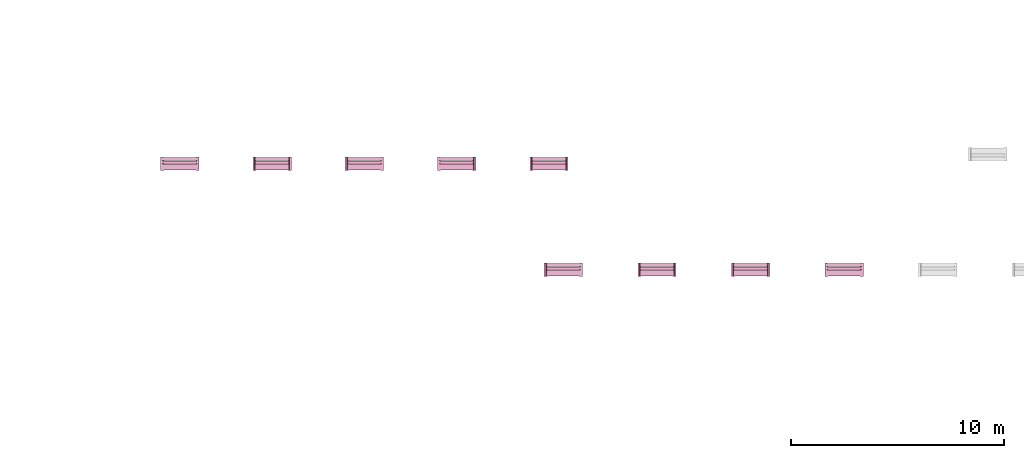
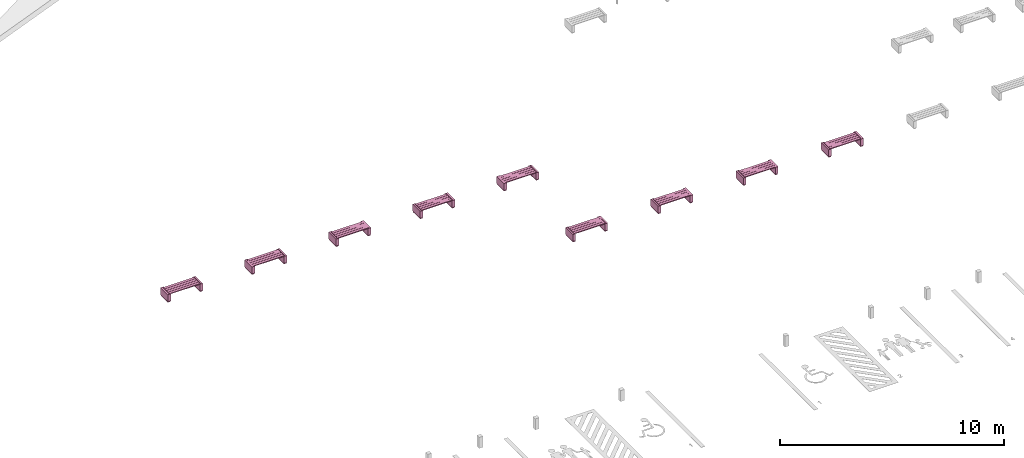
# One storey, part 5 of 8: 9 furnishings.
"""IFC2X3 building model written with IfcOpenShell, lengths in millimetres."""

from ifc_helpers import new_model, entity, si_unit, converted_unit, derived_unit, direction, frame, frame_2d, origin, origin_2d_with_axis, place, context, subcontext, project, spatial, polyline, rectangle, outline, extrude, source, transform, mapped, material, material_list, type_object, type_shapes, element, save


model = new_model("IFC2X3")

# Units and contexts
model_context = context("Model", 3, precision=0.01, world=origin(), true_north=direction((6.12303176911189e-17, 1.0)))
body_context = subcontext(model_context, "Body", "Model", "MODEL_VIEW")
ifc_project = project(units=[si_unit("LENGTHUNIT", "METRE", prefix="MILLI"), si_unit("AREAUNIT", "SQUARE_METRE"), si_unit("VOLUMEUNIT", "CUBIC_METRE"), converted_unit("PLANEANGLEUNIT", "DEGREE", entity("IfcRatioMeasure", 0.0174532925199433), si_unit("PLANEANGLEUNIT", "RADIAN"), dimensions=[0, 0, 0, 0, 0, 0, 0]), si_unit("MASSUNIT", "GRAM", prefix="KILO"), derived_unit("MASSDENSITYUNIT", [(si_unit("MASSUNIT", "GRAM", prefix="KILO"), 1), (si_unit("LENGTHUNIT", "METRE"), -3)]), si_unit("TIMEUNIT", "SECOND"), si_unit("FREQUENCYUNIT", "HERTZ"), si_unit("THERMODYNAMICTEMPERATUREUNIT", "DEGREE_CELSIUS"), derived_unit("THERMALTRANSMITTANCEUNIT", [(si_unit("MASSUNIT", "GRAM", prefix="KILO"), 1), (si_unit("THERMODYNAMICTEMPERATUREUNIT", "KELVIN"), -1), (si_unit("TIMEUNIT", "SECOND"), -3)]), derived_unit("VOLUMETRICFLOWRATEUNIT", [(si_unit("LENGTHUNIT", "METRE"), 3), (si_unit("TIMEUNIT", "SECOND"), -1)]), si_unit("ELECTRICCURRENTUNIT", "AMPERE"), si_unit("ELECTRICVOLTAGEUNIT", "VOLT"), si_unit("POWERUNIT", "WATT"), si_unit("FORCEUNIT", "NEWTON", prefix="KILO"), si_unit("ILLUMINANCEUNIT", "LUX"), si_unit("LUMINOUSFLUXUNIT", "LUMEN"), si_unit("LUMINOUSINTENSITYUNIT", "CANDELA"), derived_unit("USERDEFINED", [(si_unit("MASSUNIT", "GRAM", prefix="KILO"), -1), (si_unit("LENGTHUNIT", "METRE"), -2), (si_unit("TIMEUNIT", "SECOND"), 3), (si_unit("LUMINOUSFLUXUNIT", "LUMEN"), 1)]), derived_unit("LINEARVELOCITYUNIT", [(si_unit("LENGTHUNIT", "METRE"), 1), (si_unit("TIMEUNIT", "SECOND"), -1)]), si_unit("PRESSUREUNIT", "PASCAL"), derived_unit("USERDEFINED", [(si_unit("LENGTHUNIT", "METRE"), -2), (si_unit("MASSUNIT", "GRAM", prefix="KILO"), 1), (si_unit("TIMEUNIT", "SECOND"), -2)])], contexts=[model_context])

# Site, building, storey
site_placement = place(None, origin())
site = spatial("IfcSite", under=ifc_project, at=site_placement, Name="Default", CompositionType="ELEMENT")
building_placement = place(site_placement, origin())
building = spatial("IfcBuilding", under=site, at=building_placement, CompositionType="ELEMENT")
storey_placement = place(building_placement, origin())
storey = spatial("IfcBuildingStorey", under=building, at=storey_placement, Name="Ground Floor", CompositionType="ELEMENT", Elevation=0.0)

# Furnishings
ifc_material_1 = material(Name="Wood - Pine Grained Horizontal")
ifc_material_2 = material(Name="Paint - Titanium White")
ifc_material_list_1 = material_list([ifc_material_1, ifc_material_2])
ifc_material_list_2 = material_list([ifc_material_1, ifc_material_2])
furniture_type_1 = type_object("IfcFurnitureType", Name="FU - 036", material=ifc_material_list_2)
shared_shape_1 = source(origin(), body_context, "Body", "SweptSolid", [
    extrude(rectangle(XDim=135.000000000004, YDim=1600.0, at=origin_2d_with_axis()), frame((55156.8448425, 48076.0211532, 390.0), z_axis=(0.0, 0.0, 1.0), x_axis=(0.0, -1.0, 0.0)), (0.0, 0.0, 1.0), 40.0),
    extrude(rectangle(XDim=135.000000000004, YDim=1600.0, at=origin_2d_with_axis()), frame((55156.8448425, 47931.0211532, 390.0), z_axis=(0.0, 0.0, 1.0), x_axis=(0.0, -1.0, 0.0)), (0.0, 0.0, 1.0), 40.0),
    extrude(rectangle(XDim=135.000000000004, YDim=1600.0, at=origin_2d_with_axis()), frame((55156.8448425, 47786.0211532, 390.0), z_axis=(0.0, 0.0, 1.0), x_axis=(0.0, -1.0, 0.0)), (0.0, 0.0, 1.0), 40.0),
    extrude(rectangle(XDim=134.999999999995, YDim=1600.0, at=frame_2d((-4.32720526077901e-12, 0.0), x_axis=(1.0, 0.0))), frame((55156.8448425, 47641.0211532, 390.0), z_axis=(0.0, 0.0, 1.0), x_axis=(0.0, -1.0, 0.0)), (0.0, 0.0, 1.0), 40.0),
    extrude(outline(polyline([(-53.7500000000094, -325.0), (96.2499999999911, -325.0), (96.2499999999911, 325.0), (-53.7500000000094, 325.0), (-53.7500000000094, 300.0), (11.2499999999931, 300.0), (11.2499999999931, -300.0), (-53.7500000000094, -300.0), (-53.7500000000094, -325.0)])), frame((55960.5948425, 47858.5211532, 390.0)), (0.0, 0.0, 1.0), 40.0),
    extrude(rectangle(XDim=150.000000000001, YDim=650.0, at=frame_2d((0.0, -4.34852154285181e-12), x_axis=(1.0, 0.0))), frame((55981.8448425, 47858.5211532, 50.0)), (0.0, 0.0, 1.0), 340.0),
    extrude(rectangle(XDim=120.000000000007, YDim=619.999999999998, at=origin_2d_with_axis()), frame((55981.8448425, 47858.5211532, 0.0)), (0.0, 0.0, 1.0), 50.0),
    extrude(outline(polyline([(-325.0, -96.2499999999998), (325.0, -96.2499999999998), (325.0, 53.7500000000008), (300.0, 53.7500000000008), (300.0, -11.2500000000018), (-300.0, -11.2500000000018), (-300.0, 53.7500000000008), (-325.0, 53.7500000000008), (-325.0, -96.2499999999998)])), frame((54353.0948425, 47858.5211532, 390.0), z_axis=(0.0, 0.0, 1.0), x_axis=(0.0, -1.0, 0.0)), (0.0, 0.0, 1.0), 40.0),
    extrude(rectangle(XDim=650.0, YDim=150.000000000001, at=frame_2d((4.34852154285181e-12, 0.0), x_axis=(1.0, 0.0))), frame((54331.8448425, 47858.5211532, 50.0), z_axis=(0.0, 0.0, 1.0), x_axis=(0.0, -1.0, 0.0)), (0.0, 0.0, 1.0), 340.0),
    extrude(rectangle(XDim=619.999999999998, YDim=119.999999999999, at=frame_2d((0.0, -4.33075797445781e-12), x_axis=(1.0, 0.0))), frame((54331.8448425, 47858.5211532, 0.0), z_axis=(0.0, 0.0, 1.0), x_axis=(0.0, -1.0, 0.0)), (0.0, 0.0, 1.0), 50.0),
])
type_shapes(furniture_type_1, [shared_shape_1])
furnishing_1_placement = place(storey_placement, origin())
element("IfcFurnishingElement", 1, at=furnishing_1_placement, inside=storey, type_object=furniture_type_1, material=ifc_material_list_1, Name="FU - 036 1742940:FU - 036 1742940", ObjectType="FU - 036 1742940:FU - 036 1742940", context=body_context, shape_type="MappedRepresentation", body=[
    mapped(shared_shape_1, transform((0.0, 0.0, 0.0), scale=1.0)),
])
ifc_material_list_3 = material_list([ifc_material_1, ifc_material_2])
ifc_material_list_4 = material_list([ifc_material_1, ifc_material_2])
furniture_type_2 = type_object("IfcFurnitureType", Name="FU - 036", material=ifc_material_list_4)
shared_shape_2 = source(origin(), body_context, "Body", "SweptSolid", [
    extrude(rectangle(XDim=135.000000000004, YDim=1600.0, at=origin_2d_with_axis()), frame((50827.7994691, 48076.0211532, 390.0), z_axis=(0.0, 0.0, 1.0), x_axis=(0.0, -1.0, 0.0)), (0.0, 0.0, 1.0), 40.0),
    extrude(rectangle(XDim=135.000000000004, YDim=1600.0, at=origin_2d_with_axis()), frame((50827.7994691, 47931.0211532, 390.0), z_axis=(0.0, 0.0, 1.0), x_axis=(0.0, -1.0, 0.0)), (0.0, 0.0, 1.0), 40.0),
    extrude(rectangle(XDim=135.000000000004, YDim=1600.0, at=origin_2d_with_axis()), frame((50827.7994691, 47786.0211532, 390.0), z_axis=(0.0, 0.0, 1.0), x_axis=(0.0, -1.0, 0.0)), (0.0, 0.0, 1.0), 40.0),
    extrude(rectangle(XDim=134.999999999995, YDim=1600.0, at=frame_2d((-4.32720526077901e-12, 0.0), x_axis=(1.0, 0.0))), frame((50827.7994691, 47641.0211532, 390.0), z_axis=(0.0, 0.0, 1.0), x_axis=(0.0, -1.0, 0.0)), (0.0, 0.0, 1.0), 40.0),
    extrude(outline(polyline([(-53.7500000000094, -325.0), (96.2499999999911, -325.0), (96.2499999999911, 325.0), (-53.7500000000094, 325.0), (-53.7500000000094, 300.0), (11.2499999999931, 300.0), (11.2499999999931, -300.0), (-53.7500000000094, -300.0), (-53.7500000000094, -325.0)])), frame((51631.5494691, 47858.5211532, 390.0)), (0.0, 0.0, 1.0), 40.0),
    extrude(rectangle(XDim=150.000000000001, YDim=650.0, at=frame_2d((0.0, -4.34852154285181e-12), x_axis=(1.0, 0.0))), frame((51652.7994691, 47858.5211532, 50.0)), (0.0, 0.0, 1.0), 340.0),
    extrude(rectangle(XDim=120.000000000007, YDim=619.999999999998, at=origin_2d_with_axis()), frame((51652.7994691, 47858.5211532, 0.0)), (0.0, 0.0, 1.0), 50.0),
    extrude(outline(polyline([(-325.0, -96.2499999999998), (325.0, -96.2499999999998), (325.0, 53.7500000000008), (300.0, 53.7500000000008), (300.0, -11.2500000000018), (-300.0, -11.2500000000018), (-300.0, 53.7500000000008), (-325.0, 53.7500000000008), (-325.0, -96.2499999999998)])), frame((50024.0494691, 47858.5211532, 390.0), z_axis=(0.0, 0.0, 1.0), x_axis=(0.0, -1.0, 0.0)), (0.0, 0.0, 1.0), 40.0),
    extrude(rectangle(XDim=650.0, YDim=150.000000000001, at=frame_2d((4.34852154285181e-12, 0.0), x_axis=(1.0, 0.0))), frame((50002.7994691, 47858.5211532, 50.0), z_axis=(0.0, 0.0, 1.0), x_axis=(0.0, -1.0, 0.0)), (0.0, 0.0, 1.0), 340.0),
    extrude(rectangle(XDim=619.999999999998, YDim=119.999999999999, at=frame_2d((0.0, 4.33075797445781e-12), x_axis=(1.0, 0.0))), frame((50002.7994691, 47858.5211532, 0.0), z_axis=(0.0, 0.0, 1.0), x_axis=(0.0, -1.0, 0.0)), (0.0, 0.0, 1.0), 50.0),
])
type_shapes(furniture_type_2, [shared_shape_2])
furnishing_2_placement = place(storey_placement, origin())
element("IfcFurnishingElement", 2, at=furnishing_2_placement, inside=storey, type_object=furniture_type_2, material=ifc_material_list_3, Name="FU - 036 2102354:FU - 036 2102354", ObjectType="FU - 036 2102354:FU - 036 2102354", context=body_context, shape_type="MappedRepresentation", body=[
    mapped(shared_shape_2, transform((0.0, 0.0, 0.0), scale=1.0)),
])
ifc_material_list_5 = material_list([ifc_material_1, ifc_material_2])
ifc_material_list_6 = material_list([ifc_material_1, ifc_material_2])
furniture_type_3 = type_object("IfcFurnitureType", Name="FU - 036", material=ifc_material_list_6)
shared_shape_3 = source(origin(), body_context, "Body", "SweptSolid", [
    extrude(rectangle(XDim=135.000000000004, YDim=1600.0, at=origin_2d_with_axis()), frame((46498.7540957, 48076.0211532, 390.0), z_axis=(0.0, 0.0, 1.0), x_axis=(0.0, -1.0, 0.0)), (0.0, 0.0, 1.0), 40.0),
    extrude(rectangle(XDim=135.000000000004, YDim=1600.0, at=origin_2d_with_axis()), frame((46498.7540957, 47931.0211532, 390.0), z_axis=(0.0, 0.0, 1.0), x_axis=(0.0, -1.0, 0.0)), (0.0, 0.0, 1.0), 40.0),
    extrude(rectangle(XDim=135.000000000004, YDim=1600.0, at=origin_2d_with_axis()), frame((46498.7540957, 47786.0211532, 390.0), z_axis=(0.0, 0.0, 1.0), x_axis=(0.0, -1.0, 0.0)), (0.0, 0.0, 1.0), 40.0),
    extrude(rectangle(XDim=134.999999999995, YDim=1600.0, at=frame_2d((-4.32720526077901e-12, 0.0), x_axis=(1.0, 0.0))), frame((46498.7540957, 47641.0211532, 390.0), z_axis=(0.0, 0.0, 1.0), x_axis=(0.0, -1.0, 0.0)), (0.0, 0.0, 1.0), 40.0),
    extrude(outline(polyline([(-53.7500000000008, -325.0), (96.2499999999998, -325.0), (96.2499999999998, 325.0), (-53.7500000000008, 325.0), (-53.7500000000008, 300.0), (11.2500000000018, 300.0), (11.2500000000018, -300.0), (-53.7500000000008, -300.0), (-53.7500000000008, -325.0)])), frame((47302.5040957, 47858.5211532, 390.0)), (0.0, 0.0, 1.0), 40.0),
    extrude(rectangle(XDim=150.000000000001, YDim=650.0, at=frame_2d((0.0, -4.34852154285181e-12), x_axis=(1.0, 0.0))), frame((47323.7540957, 47858.5211532, 50.0)), (0.0, 0.0, 1.0), 340.0),
    extrude(rectangle(XDim=120.000000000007, YDim=619.999999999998, at=origin_2d_with_axis()), frame((47323.7540957, 47858.5211532, 0.0)), (0.0, 0.0, 1.0), 50.0),
    extrude(outline(polyline([(-325.0, -96.2499999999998), (325.0, -96.2499999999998), (325.0, 53.7500000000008), (300.0, 53.7500000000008), (300.0, -11.2500000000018), (-300.0, -11.2500000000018), (-300.0, 53.7500000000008), (-325.0, 53.7500000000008), (-325.0, -96.2499999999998)])), frame((45695.0040957, 47858.5211532, 390.0), z_axis=(0.0, 0.0, 1.0), x_axis=(0.0, -1.0, 0.0)), (0.0, 0.0, 1.0), 40.0),
    extrude(rectangle(XDim=650.0, YDim=150.000000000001, at=frame_2d((4.34852154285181e-12, 0.0), x_axis=(1.0, 0.0))), frame((45673.7540957, 47858.5211532, 50.0), z_axis=(0.0, 0.0, 1.0), x_axis=(0.0, -1.0, 0.0)), (0.0, 0.0, 1.0), 340.0),
    extrude(rectangle(XDim=619.999999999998, YDim=119.999999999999, at=frame_2d((0.0, 4.33075797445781e-12), x_axis=(1.0, 0.0))), frame((45673.7540957, 47858.5211532, 0.0), z_axis=(0.0, 0.0, 1.0), x_axis=(0.0, -1.0, 0.0)), (0.0, 0.0, 1.0), 50.0),
])
type_shapes(furniture_type_3, [shared_shape_3])
furnishing_3_placement = place(storey_placement, origin())
element("IfcFurnishingElement", 3, at=furnishing_3_placement, inside=storey, type_object=furniture_type_3, material=ifc_material_list_5, Name="FU - 036 2102503:FU - 036 2102503", ObjectType="FU - 036 2102503:FU - 036 2102503", context=body_context, shape_type="MappedRepresentation", body=[
    mapped(shared_shape_3, transform((0.0, 0.0, 0.0), scale=1.0)),
])
ifc_material_list_7 = material_list([ifc_material_1, ifc_material_2])
ifc_material_list_8 = material_list([ifc_material_1, ifc_material_2])
furniture_type_4 = type_object("IfcFurnitureType", Name="FU - 036", material=ifc_material_list_8)
shared_shape_4 = source(origin(), body_context, "Body", "SweptSolid", [
    extrude(rectangle(XDim=135.000000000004, YDim=1600.0, at=origin_2d_with_axis()), frame((42169.7087223, 48076.0211532, 390.0), z_axis=(0.0, 0.0, 1.0), x_axis=(0.0, -1.0, 0.0)), (0.0, 0.0, 1.0), 40.0),
    extrude(rectangle(XDim=135.000000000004, YDim=1600.0, at=origin_2d_with_axis()), frame((42169.7087223, 47931.0211532, 390.0), z_axis=(0.0, 0.0, 1.0), x_axis=(0.0, -1.0, 0.0)), (0.0, 0.0, 1.0), 40.0),
    extrude(rectangle(XDim=135.000000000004, YDim=1600.0, at=origin_2d_with_axis()), frame((42169.7087223, 47786.0211532, 390.0), z_axis=(0.0, 0.0, 1.0), x_axis=(0.0, -1.0, 0.0)), (0.0, 0.0, 1.0), 40.0),
    extrude(rectangle(XDim=134.999999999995, YDim=1600.0, at=frame_2d((-4.32720526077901e-12, 0.0), x_axis=(1.0, 0.0))), frame((42169.7087223, 47641.0211532, 390.0), z_axis=(0.0, 0.0, 1.0), x_axis=(0.0, -1.0, 0.0)), (0.0, 0.0, 1.0), 40.0),
    extrude(outline(polyline([(-53.7500000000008, -325.0), (96.2499999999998, -325.0), (96.2499999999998, 325.0), (-53.7500000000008, 325.0), (-53.7500000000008, 300.0), (11.2500000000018, 300.0), (11.2500000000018, -300.0), (-53.7500000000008, -300.0), (-53.7500000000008, -325.0)])), frame((42973.4587223, 47858.5211532, 390.0)), (0.0, 0.0, 1.0), 40.0),
    extrude(rectangle(XDim=150.000000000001, YDim=650.0, at=frame_2d((0.0, -4.34852154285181e-12), x_axis=(1.0, 0.0))), frame((42994.7087223, 47858.5211532, 50.0)), (0.0, 0.0, 1.0), 340.0),
    extrude(rectangle(XDim=120.000000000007, YDim=619.999999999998, at=origin_2d_with_axis()), frame((42994.7087223, 47858.5211532, 0.0)), (0.0, 0.0, 1.0), 50.0),
    extrude(outline(polyline([(-325.0, -96.2499999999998), (325.0, -96.2499999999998), (325.0, 53.7500000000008), (300.0, 53.7500000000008), (300.0, -11.2500000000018), (-300.0, -11.2500000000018), (-300.0, 53.7500000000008), (-325.0, 53.7500000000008), (-325.0, -96.2499999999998)])), frame((41365.9587223, 47858.5211532, 390.0), z_axis=(0.0, 0.0, 1.0), x_axis=(0.0, -1.0, 0.0)), (0.0, 0.0, 1.0), 40.0),
    extrude(rectangle(XDim=650.0, YDim=150.000000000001, at=frame_2d((4.34852154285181e-12, 0.0), x_axis=(1.0, 0.0))), frame((41344.7087223, 47858.5211532, 50.0), z_axis=(0.0, 0.0, 1.0), x_axis=(0.0, -1.0, 0.0)), (0.0, 0.0, 1.0), 340.0),
    extrude(rectangle(XDim=619.999999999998, YDim=119.999999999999, at=frame_2d((0.0, 4.33075797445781e-12), x_axis=(1.0, 0.0))), frame((41344.7087223, 47858.5211532, 0.0), z_axis=(0.0, 0.0, 1.0), x_axis=(0.0, -1.0, 0.0)), (0.0, 0.0, 1.0), 50.0),
])
type_shapes(furniture_type_4, [shared_shape_4])
furnishing_4_placement = place(storey_placement, origin())
element("IfcFurnishingElement", 4, at=furnishing_4_placement, inside=storey, type_object=furniture_type_4, material=ifc_material_list_7, Name="FU - 036 2102652:FU - 036 2102652", ObjectType="FU - 036 2102652:FU - 036 2102652", context=body_context, shape_type="MappedRepresentation", body=[
    mapped(shared_shape_4, transform((0.0, 0.0, 0.0), scale=1.0)),
])
ifc_material_list_9 = material_list([ifc_material_1, ifc_material_2])
ifc_material_list_10 = material_list([ifc_material_1, ifc_material_2])
furniture_type_5 = type_object("IfcFurnitureType", Name="FU - 036", material=ifc_material_list_10)
shared_shape_5 = source(origin(), body_context, "Body", "SweptSolid", [
    extrude(rectangle(XDim=135.000000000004, YDim=1600.0, at=origin_2d_with_axis()), frame((37840.6633489, 48076.0211532, 390.0), z_axis=(0.0, 0.0, 1.0), x_axis=(0.0, -1.0, 0.0)), (0.0, 0.0, 1.0), 40.0),
    extrude(rectangle(XDim=135.000000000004, YDim=1600.0, at=origin_2d_with_axis()), frame((37840.6633489, 47931.0211532, 390.0), z_axis=(0.0, 0.0, 1.0), x_axis=(0.0, -1.0, 0.0)), (0.0, 0.0, 1.0), 40.0),
    extrude(rectangle(XDim=135.000000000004, YDim=1600.0, at=origin_2d_with_axis()), frame((37840.6633489, 47786.0211532, 390.0), z_axis=(0.0, 0.0, 1.0), x_axis=(0.0, -1.0, 0.0)), (0.0, 0.0, 1.0), 40.0),
    extrude(rectangle(XDim=134.999999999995, YDim=1600.0, at=frame_2d((-4.32720526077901e-12, 0.0), x_axis=(1.0, 0.0))), frame((37840.6633489, 47641.0211532, 390.0), z_axis=(0.0, 0.0, 1.0), x_axis=(0.0, -1.0, 0.0)), (0.0, 0.0, 1.0), 40.0),
    extrude(outline(polyline([(-53.7500000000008, -325.0), (96.2499999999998, -325.0), (96.2499999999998, 325.0), (-53.7500000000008, 325.0), (-53.7500000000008, 300.0), (11.2499999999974, 300.0), (11.2499999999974, -300.0), (-53.7500000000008, -300.0), (-53.7500000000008, -325.0)])), frame((38644.4133489, 47858.5211532, 390.0)), (0.0, 0.0, 1.0), 40.0),
    extrude(rectangle(XDim=150.000000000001, YDim=650.0, at=frame_2d((0.0, -4.34852154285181e-12), x_axis=(1.0, 0.0))), frame((38665.6633489, 47858.5211532, 50.0)), (0.0, 0.0, 1.0), 340.0),
    extrude(rectangle(XDim=119.999999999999, YDim=619.999999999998, at=origin_2d_with_axis()), frame((38665.6633489, 47858.5211532, 0.0)), (0.0, 0.0, 1.0), 50.0),
    extrude(outline(polyline([(-325.0, -96.2499999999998), (325.0, -96.2499999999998), (325.0, 53.7500000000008), (300.0, 53.7500000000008), (300.0, -11.2499999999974), (-300.0, -11.2499999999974), (-300.0, 53.7500000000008), (-325.0, 53.7500000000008), (-325.0, -96.2499999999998)])), frame((37036.9133489, 47858.5211532, 390.0), z_axis=(0.0, 0.0, 1.0), x_axis=(0.0, -1.0, 0.0)), (0.0, 0.0, 1.0), 40.0),
    extrude(rectangle(XDim=650.0, YDim=150.000000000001, at=frame_2d((4.34852154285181e-12, 0.0), x_axis=(1.0, 0.0))), frame((37015.6633489, 47858.5211532, 50.0), z_axis=(0.0, 0.0, 1.0), x_axis=(0.0, -1.0, 0.0)), (0.0, 0.0, 1.0), 340.0),
    extrude(rectangle(XDim=619.999999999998, YDim=120.000000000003, at=frame_2d((0.0, 2.16715534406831e-12), x_axis=(1.0, 0.0))), frame((37015.6633489, 47858.5211532, 0.0), z_axis=(0.0, 0.0, 1.0), x_axis=(0.0, -1.0, 0.0)), (0.0, 0.0, 1.0), 50.0),
])
type_shapes(furniture_type_5, [shared_shape_5])
furnishing_5_placement = place(storey_placement, origin())
element("IfcFurnishingElement", 5, at=furnishing_5_placement, inside=storey, type_object=furniture_type_5, material=ifc_material_list_9, Name="FU - 036 2102801:FU - 036 2102801", ObjectType="FU - 036 2102801:FU - 036 2102801", context=body_context, shape_type="MappedRepresentation", body=[
    mapped(shared_shape_5, transform((0.0, 0.0, 0.0), scale=1.0)),
])
ifc_material_list_11 = material_list([ifc_material_1, ifc_material_2])
ifc_material_list_12 = material_list([ifc_material_1, ifc_material_2])
furniture_type_6 = type_object("IfcFurnitureType", Name="FU - 036", material=ifc_material_list_12)
shared_shape_6 = source(origin(), body_context, "Body", "SweptSolid", [
    extrude(rectangle(XDim=135.000000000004, YDim=1600.0, at=frame_2d((0.0, -8.69704308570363e-12), x_axis=(1.0, 0.0))), frame((69005.5153093, 43103.6148315, 390.0), z_axis=(0.0, 0.0, 1.0), x_axis=(0.0, -1.0, 0.0)), (0.0, 0.0, 1.0), 40.0),
    extrude(rectangle(XDim=135.000000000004, YDim=1600.0, at=frame_2d((0.0, -8.69704308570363e-12), x_axis=(1.0, 0.0))), frame((69005.5153093, 42958.6148315, 390.0), z_axis=(0.0, 0.0, 1.0), x_axis=(0.0, -1.0, 0.0)), (0.0, 0.0, 1.0), 40.0),
    extrude(rectangle(XDim=134.999999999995, YDim=1600.0, at=frame_2d((-4.32720526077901e-12, -8.69704308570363e-12), x_axis=(1.0, 0.0))), frame((69005.5153093, 42813.6148315, 390.0), z_axis=(0.0, 0.0, 1.0), x_axis=(0.0, -1.0, 0.0)), (0.0, 0.0, 1.0), 40.0),
    extrude(rectangle(XDim=134.999999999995, YDim=1600.0, at=frame_2d((-4.32720526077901e-12, -8.69704308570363e-12), x_axis=(1.0, 0.0))), frame((69005.5153093, 42668.6148315, 390.0), z_axis=(0.0, 0.0, 1.0), x_axis=(0.0, -1.0, 0.0)), (0.0, 0.0, 1.0), 40.0),
    extrude(outline(polyline([(-53.7500000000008, -325.0), (96.2499999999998, -325.0), (96.2499999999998, 325.0), (-53.7500000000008, 325.0), (-53.7500000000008, 300.0), (11.2500000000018, 300.0), (11.2500000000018, -300.0), (-53.7500000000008, -300.0), (-53.7500000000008, -325.0)])), frame((69809.2653093, 42886.1148315, 390.0)), (0.0, 0.0, 1.0), 40.0),
    extrude(rectangle(XDim=150.000000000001, YDim=650.0, at=frame_2d((0.0, -4.34852154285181e-12), x_axis=(1.0, 0.0))), frame((69830.5153093, 42886.1148315, 50.0)), (0.0, 0.0, 1.0), 340.0),
    extrude(rectangle(XDim=119.999999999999, YDim=619.999999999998, at=frame_2d((-4.33075797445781e-12, 0.0), x_axis=(1.0, 0.0))), frame((69830.5153093, 42886.1148315, 0.0)), (0.0, 0.0, 1.0), 50.0),
    extrude(outline(polyline([(-325.0, -96.2499999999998), (325.0, -96.2499999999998), (325.0, 53.7500000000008), (300.0, 53.7500000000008), (300.0, -11.2500000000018), (-300.0, -11.2500000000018), (-300.0, 53.7500000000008), (-325.0, 53.7500000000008), (-325.0, -96.2499999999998)])), frame((68201.7653093, 42886.1148315, 390.0), z_axis=(0.0, 0.0, 1.0), x_axis=(0.0, -1.0, 0.0)), (0.0, 0.0, 1.0), 40.0),
    extrude(rectangle(XDim=650.0, YDim=150.000000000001, at=frame_2d((4.34852154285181e-12, 0.0), x_axis=(1.0, 0.0))), frame((68180.5153093, 42886.1148315, 50.0), z_axis=(0.0, 0.0, 1.0), x_axis=(0.0, -1.0, 0.0)), (0.0, 0.0, 1.0), 340.0),
    extrude(rectangle(XDim=619.999999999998, YDim=120.000000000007, at=origin_2d_with_axis()), frame((68180.5153093, 42886.1148315, 0.0), z_axis=(0.0, 0.0, 1.0), x_axis=(0.0, -1.0, 0.0)), (0.0, 0.0, 1.0), 50.0),
])
type_shapes(furniture_type_6, [shared_shape_6])
furnishing_6_placement = place(storey_placement, origin())
element("IfcFurnishingElement", 6, at=furnishing_6_placement, inside=storey, type_object=furniture_type_6, material=ifc_material_list_11, Name="FU - 036 2103546:FU - 036 2103546", ObjectType="FU - 036 2103546:FU - 036 2103546", context=body_context, shape_type="MappedRepresentation", body=[
    mapped(shared_shape_6, transform((0.0, 0.0, 0.0), scale=1.0)),
])
ifc_material_list_13 = material_list([ifc_material_1, ifc_material_2])
ifc_material_list_14 = material_list([ifc_material_1, ifc_material_2])
furniture_type_7 = type_object("IfcFurnitureType", Name="FU - 036", material=ifc_material_list_14)
shared_shape_7 = source(origin(), body_context, "Body", "SweptSolid", [
    extrude(rectangle(XDim=135.000000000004, YDim=1600.0, at=origin_2d_with_axis()), frame((64614.4647323, 43103.6148315, 390.0), z_axis=(0.0, 0.0, 1.0), x_axis=(0.0, -1.0, 0.0)), (0.0, 0.0, 1.0), 40.0),
    extrude(rectangle(XDim=135.000000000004, YDim=1600.0, at=origin_2d_with_axis()), frame((64614.4647323, 42958.6148315, 390.0), z_axis=(0.0, 0.0, 1.0), x_axis=(0.0, -1.0, 0.0)), (0.0, 0.0, 1.0), 40.0),
    extrude(rectangle(XDim=134.999999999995, YDim=1600.0, at=frame_2d((-4.32720526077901e-12, 0.0), x_axis=(1.0, 0.0))), frame((64614.4647323, 42813.6148315, 390.0), z_axis=(0.0, 0.0, 1.0), x_axis=(0.0, -1.0, 0.0)), (0.0, 0.0, 1.0), 40.0),
    extrude(rectangle(XDim=134.999999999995, YDim=1600.0, at=frame_2d((-4.32720526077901e-12, 0.0), x_axis=(1.0, 0.0))), frame((64614.4647323, 42668.6148315, 390.0), z_axis=(0.0, 0.0, 1.0), x_axis=(0.0, -1.0, 0.0)), (0.0, 0.0, 1.0), 40.0),
    extrude(outline(polyline([(-53.7499999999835, -325.0), (96.2500000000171, -325.0), (96.2500000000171, 325.0), (-53.7499999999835, 325.0), (-53.7499999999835, 300.0), (11.2500000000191, 300.0), (11.2500000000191, -300.0), (-53.7499999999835, -300.0), (-53.7499999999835, -325.0)])), frame((65418.2147323, 42886.1148315, 390.0)), (0.0, 0.0, 1.0), 40.0),
    extrude(rectangle(XDim=150.000000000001, YDim=650.0, at=frame_2d((0.0, -4.34852154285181e-12), x_axis=(1.0, 0.0))), frame((65439.4647323, 42886.1148315, 50.0)), (0.0, 0.0, 1.0), 340.0),
    extrude(rectangle(XDim=119.999999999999, YDim=619.999999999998, at=frame_2d((-4.33075797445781e-12, 0.0), x_axis=(1.0, 0.0))), frame((65439.4647323, 42886.1148315, 0.0)), (0.0, 0.0, 1.0), 50.0),
    extrude(outline(polyline([(-325.0, -96.2500000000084), (325.0, -96.2500000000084), (325.0, 53.7499999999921), (300.0, 53.7499999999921), (300.0, -11.2500000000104), (-300.0, -11.2500000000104), (-300.0, 53.7499999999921), (-325.0, 53.7499999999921), (-325.0, -96.2500000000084)])), frame((63810.7147323, 42886.1148315, 390.0), z_axis=(0.0, 0.0, 1.0), x_axis=(0.0, -1.0, 0.0)), (0.0, 0.0, 1.0), 40.0),
    extrude(rectangle(XDim=650.0, YDim=150.000000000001, at=frame_2d((4.34852154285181e-12, 0.0), x_axis=(1.0, 0.0))), frame((63789.4647323, 42886.1148315, 50.0), z_axis=(0.0, 0.0, 1.0), x_axis=(0.0, -1.0, 0.0)), (0.0, 0.0, 1.0), 340.0),
    extrude(rectangle(XDim=619.999999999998, YDim=119.999999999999, at=frame_2d((0.0, 4.33075797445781e-12), x_axis=(1.0, 0.0))), frame((63789.4647323, 42886.1148315, 0.0), z_axis=(0.0, 0.0, 1.0), x_axis=(0.0, -1.0, 0.0)), (0.0, 0.0, 1.0), 50.0),
])
type_shapes(furniture_type_7, [shared_shape_7])
furnishing_7_placement = place(storey_placement, origin())
element("IfcFurnishingElement", 7, at=furnishing_7_placement, inside=storey, type_object=furniture_type_7, material=ifc_material_list_13, Name="FU - 036 2103695:FU - 036 2103695", ObjectType="FU - 036 2103695:FU - 036 2103695", context=body_context, shape_type="MappedRepresentation", body=[
    mapped(shared_shape_7, transform((0.0, 0.0, 0.0), scale=1.0)),
])
ifc_material_list_15 = material_list([ifc_material_1, ifc_material_2])
ifc_material_list_16 = material_list([ifc_material_1, ifc_material_2])
furniture_type_8 = type_object("IfcFurnitureType", Name="FU - 036", material=ifc_material_list_16)
shared_shape_8 = source(origin(), body_context, "Body", "SweptSolid", [
    extrude(rectangle(XDim=135.000000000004, YDim=1600.0, at=origin_2d_with_axis()), frame((60223.4141552, 43103.6148315, 390.0), z_axis=(0.0, 0.0, 1.0), x_axis=(0.0, -1.0, 0.0)), (0.0, 0.0, 1.0), 40.0),
    extrude(rectangle(XDim=135.000000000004, YDim=1600.0, at=origin_2d_with_axis()), frame((60223.4141552, 42958.6148315, 390.0), z_axis=(0.0, 0.0, 1.0), x_axis=(0.0, -1.0, 0.0)), (0.0, 0.0, 1.0), 40.0),
    extrude(rectangle(XDim=134.999999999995, YDim=1600.0, at=frame_2d((-4.32720526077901e-12, 0.0), x_axis=(1.0, 0.0))), frame((60223.4141552, 42813.6148315, 390.0), z_axis=(0.0, 0.0, 1.0), x_axis=(0.0, -1.0, 0.0)), (0.0, 0.0, 1.0), 40.0),
    extrude(rectangle(XDim=134.999999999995, YDim=1600.0, at=frame_2d((-4.32720526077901e-12, 0.0), x_axis=(1.0, 0.0))), frame((60223.4141552, 42668.6148315, 390.0), z_axis=(0.0, 0.0, 1.0), x_axis=(0.0, -1.0, 0.0)), (0.0, 0.0, 1.0), 40.0),
    extrude(outline(polyline([(-53.7500000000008, -325.0), (96.2499999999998, -325.0), (96.2499999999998, 325.0), (-53.7500000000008, 325.0), (-53.7500000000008, 300.0), (11.2500000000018, 300.0), (11.2500000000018, -300.0), (-53.7500000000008, -300.0), (-53.7500000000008, -325.0)])), frame((61027.1641552, 42886.1148315, 390.0)), (0.0, 0.0, 1.0), 40.0),
    extrude(rectangle(XDim=150.000000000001, YDim=650.0, at=frame_2d((0.0, -4.34852154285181e-12), x_axis=(1.0, 0.0))), frame((61048.4141552, 42886.1148315, 50.0)), (0.0, 0.0, 1.0), 340.0),
    extrude(rectangle(XDim=119.999999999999, YDim=619.999999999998, at=frame_2d((-4.33075797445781e-12, 0.0), x_axis=(1.0, 0.0))), frame((61048.4141552, 42886.1148315, 0.0)), (0.0, 0.0, 1.0), 50.0),
    extrude(outline(polyline([(-325.0, -96.2499999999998), (325.0, -96.2499999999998), (325.0, 53.7500000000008), (300.0, 53.7500000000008), (300.0, -11.2500000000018), (-300.0, -11.2500000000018), (-300.0, 53.7500000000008), (-325.0, 53.7500000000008), (-325.0, -96.2499999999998)])), frame((59419.6641552, 42886.1148315, 390.0), z_axis=(0.0, 0.0, 1.0), x_axis=(0.0, -1.0, 0.0)), (0.0, 0.0, 1.0), 40.0),
    extrude(rectangle(XDim=650.0, YDim=150.000000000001, at=frame_2d((4.34852154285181e-12, 0.0), x_axis=(1.0, 0.0))), frame((59398.4141552, 42886.1148315, 50.0), z_axis=(0.0, 0.0, 1.0), x_axis=(0.0, -1.0, 0.0)), (0.0, 0.0, 1.0), 340.0),
    extrude(rectangle(XDim=619.999999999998, YDim=119.999999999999, at=frame_2d((0.0, 4.33075797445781e-12), x_axis=(1.0, 0.0))), frame((59398.4141552, 42886.1148315, 0.0), z_axis=(0.0, 0.0, 1.0), x_axis=(0.0, -1.0, 0.0)), (0.0, 0.0, 1.0), 50.0),
])
type_shapes(furniture_type_8, [shared_shape_8])
furnishing_8_placement = place(storey_placement, origin())
element("IfcFurnishingElement", 8, at=furnishing_8_placement, inside=storey, type_object=furniture_type_8, material=ifc_material_list_15, Name="FU - 036 2104376:FU - 036 2104376", ObjectType="FU - 036 2104376:FU - 036 2104376", context=body_context, shape_type="MappedRepresentation", body=[
    mapped(shared_shape_8, transform((0.0, 0.0, 0.0), scale=1.0)),
])
ifc_material_list_17 = material_list([ifc_material_1, ifc_material_2])
ifc_material_list_18 = material_list([ifc_material_1, ifc_material_2])
furniture_type_9 = type_object("IfcFurnitureType", Name="FU - 036", material=ifc_material_list_18)
shared_shape_9 = source(origin(), body_context, "Body", "SweptSolid", [
    extrude(rectangle(XDim=135.000000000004, YDim=1600.0, at=origin_2d_with_axis()), frame((55832.3635782, 43103.6148315, 390.0), z_axis=(0.0, 0.0, 1.0), x_axis=(0.0, -1.0, 0.0)), (0.0, 0.0, 1.0), 40.0),
    extrude(rectangle(XDim=135.000000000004, YDim=1600.0, at=origin_2d_with_axis()), frame((55832.3635782, 42958.6148315, 390.0), z_axis=(0.0, 0.0, 1.0), x_axis=(0.0, -1.0, 0.0)), (0.0, 0.0, 1.0), 40.0),
    extrude(rectangle(XDim=134.999999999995, YDim=1600.0, at=frame_2d((-4.32720526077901e-12, 0.0), x_axis=(1.0, 0.0))), frame((55832.3635782, 42813.6148315, 390.0), z_axis=(0.0, 0.0, 1.0), x_axis=(0.0, -1.0, 0.0)), (0.0, 0.0, 1.0), 40.0),
    extrude(rectangle(XDim=134.999999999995, YDim=1600.0, at=frame_2d((-4.32720526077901e-12, 0.0), x_axis=(1.0, 0.0))), frame((55832.3635782, 42668.6148315, 390.0), z_axis=(0.0, 0.0, 1.0), x_axis=(0.0, -1.0, 0.0)), (0.0, 0.0, 1.0), 40.0),
    extrude(outline(polyline([(-53.7499999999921, -325.0), (96.2500000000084, -325.0), (96.2500000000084, 325.0), (-53.7499999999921, 325.0), (-53.7499999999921, 300.0), (11.2500000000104, 300.0), (11.2500000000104, -300.0), (-53.7499999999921, -300.0), (-53.7499999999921, -325.0)])), frame((56636.1135782, 42886.1148315, 390.0)), (0.0, 0.0, 1.0), 40.0),
    extrude(rectangle(XDim=150.000000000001, YDim=650.0, at=frame_2d((0.0, -4.34852154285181e-12), x_axis=(1.0, 0.0))), frame((56657.3635782, 42886.1148315, 50.0)), (0.0, 0.0, 1.0), 340.0),
    extrude(rectangle(XDim=119.999999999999, YDim=619.999999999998, at=frame_2d((-4.33075797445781e-12, 0.0), x_axis=(1.0, 0.0))), frame((56657.3635782, 42886.1148315, 0.0)), (0.0, 0.0, 1.0), 50.0),
    extrude(outline(polyline([(-325.0, -96.2499999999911), (325.0, -96.2499999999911), (325.0, 53.7500000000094), (300.0, 53.7500000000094), (300.0, -11.2499999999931), (-300.0, -11.2499999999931), (-300.0, 53.7500000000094), (-325.0, 53.7500000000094), (-325.0, -96.2499999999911)])), frame((55028.6135782, 42886.1148315, 390.0), z_axis=(0.0, 0.0, 1.0), x_axis=(0.0, -1.0, 0.0)), (0.0, 0.0, 1.0), 40.0),
    extrude(rectangle(XDim=650.0, YDim=150.000000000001, at=frame_2d((4.34852154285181e-12, 0.0), x_axis=(1.0, 0.0))), frame((55007.3635782, 42886.1148315, 50.0), z_axis=(0.0, 0.0, 1.0), x_axis=(0.0, -1.0, 0.0)), (0.0, 0.0, 1.0), 340.0),
    extrude(rectangle(XDim=619.999999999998, YDim=119.999999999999, at=frame_2d((0.0, 4.33075797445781e-12), x_axis=(1.0, 0.0))), frame((55007.3635782, 42886.1148315, 0.0), z_axis=(0.0, 0.0, 1.0), x_axis=(0.0, -1.0, 0.0)), (0.0, 0.0, 1.0), 50.0),
])
type_shapes(furniture_type_9, [shared_shape_9])
furnishing_9_placement = place(storey_placement, origin())
element("IfcFurnishingElement", 9, at=furnishing_9_placement, inside=storey, type_object=furniture_type_9, material=ifc_material_list_17, Name="FU - 036 2104525:FU - 036 2104525", ObjectType="FU - 036 2104525:FU - 036 2104525", context=body_context, shape_type="MappedRepresentation", body=[
    mapped(shared_shape_9, transform((0.0, 0.0, 0.0), scale=1.0)),
])

save(model, "model.ifc")
